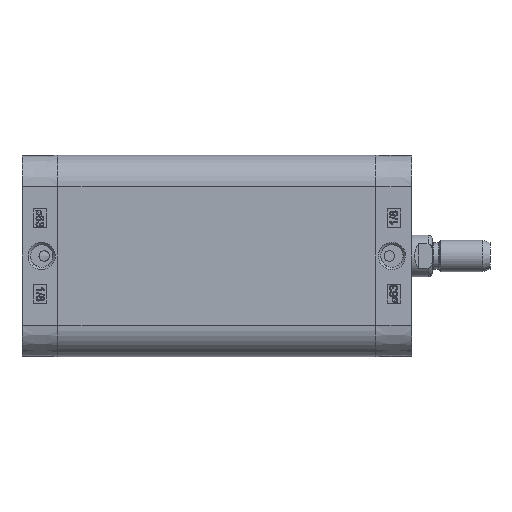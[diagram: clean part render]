
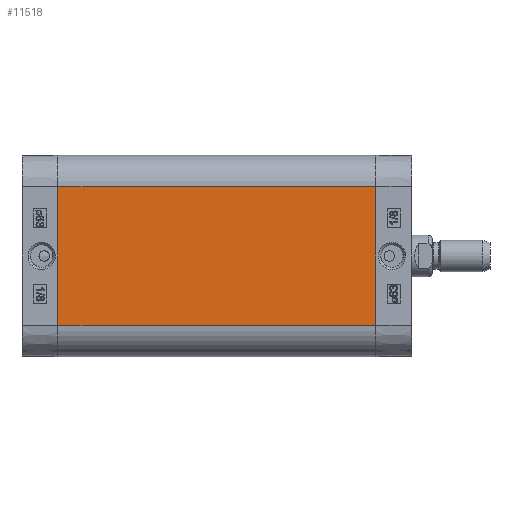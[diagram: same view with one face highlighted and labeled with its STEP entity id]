
A CAD part, left-side view. The second image highlights one B-rep face of the part: STEP entity #11518.
In plain terms, the highlighted planar face has unit normal (-1, 0, 0).
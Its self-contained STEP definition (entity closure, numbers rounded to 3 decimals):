
#5848=CARTESIAN_POINT('',(-38.5,-121.5,26.5));
#5849=VERTEX_POINT('',#5848);
#5856=CARTESIAN_POINT('',(-38.5,-121.5,-26.5));
#5857=VERTEX_POINT('',#5856);
#5858=CARTESIAN_POINT('',(-38.5,-121.5,-26.5));
#5859=DIRECTION('',(0.0,0.0,1.0));
#5860=VECTOR('',#5859,53.0);
#5861=LINE('',#5858,#5860);
#5862=EDGE_CURVE('',#5857,#5849,#5861,.T.);
#11476=CARTESIAN_POINT('',(-38.5,0.0,-26.5));
#11477=VERTEX_POINT('',#11476);
#11478=CARTESIAN_POINT('',(-38.5,0.0,-26.5));
#11479=DIRECTION('',(0.0,-1.0,0.0));
#11480=VECTOR('',#11479,121.5);
#11481=LINE('',#11478,#11480);
#11482=EDGE_CURVE('',#11477,#5857,#11481,.T.);
#11495=CARTESIAN_POINT('',(-38.5,0.0,-26.5));
#11496=DIRECTION('',(-1.0,0.0,0.0));
#11497=DIRECTION('',(0.0,0.0,1.0));
#11498=AXIS2_PLACEMENT_3D('',#11495,#11496,#11497);
#11499=PLANE('',#11498);
#11500=ORIENTED_EDGE('',*,*,#5862,.T.);
#11501=CARTESIAN_POINT('',(-38.5,0.0,26.5));
#11502=VERTEX_POINT('',#11501);
#11503=CARTESIAN_POINT('',(-38.5,0.0,26.5));
#11504=DIRECTION('',(0.0,-1.0,0.0));
#11505=VECTOR('',#11504,121.5);
#11506=LINE('',#11503,#11505);
#11507=EDGE_CURVE('',#11502,#5849,#11506,.T.);
#11508=ORIENTED_EDGE('',*,*,#11507,.F.);
#11509=CARTESIAN_POINT('',(-38.5,0.0,-26.5));
#11510=DIRECTION('',(0.0,0.0,1.0));
#11511=VECTOR('',#11510,53.0);
#11512=LINE('',#11509,#11511);
#11513=EDGE_CURVE('',#11477,#11502,#11512,.T.);
#11514=ORIENTED_EDGE('',*,*,#11513,.F.);
#11515=ORIENTED_EDGE('',*,*,#11482,.T.);
#11516=EDGE_LOOP('',(#11500,#11508,#11514,#11515));
#11517=FACE_OUTER_BOUND('',#11516,.T.);
#11518=ADVANCED_FACE('',(#11517),#11499,.T.);
